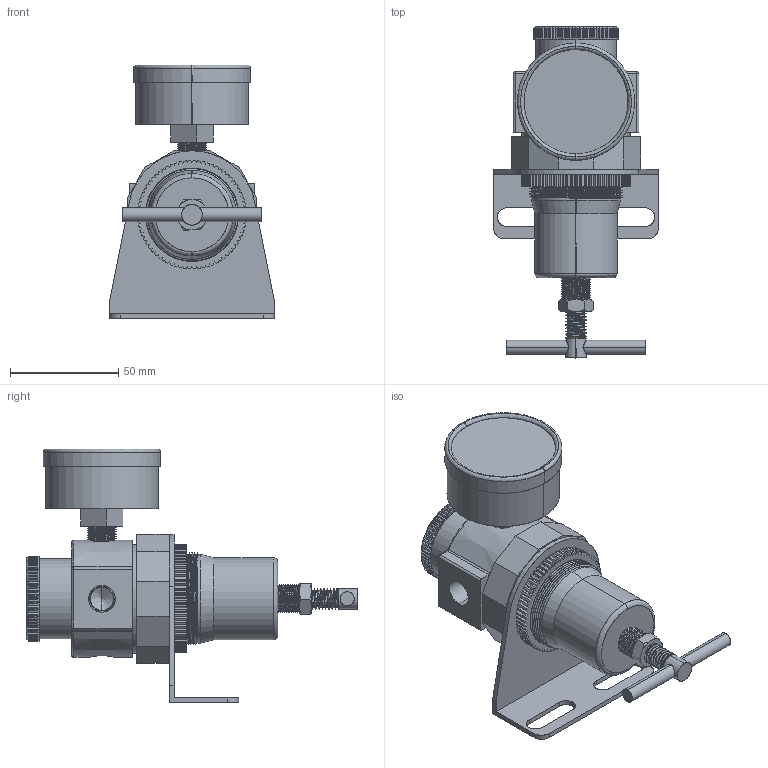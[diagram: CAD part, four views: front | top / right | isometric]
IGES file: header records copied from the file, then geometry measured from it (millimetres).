
Start section: SolidWorks IGES file using analytic representation for surfaces
Global section: file name: D:\Custom\3D繪製\FRL\空氣調壓閥\R011-02GB#.IGS; native system: SolidWorks 2014; preprocessor: SolidWorks 2014; author: Chieh_Lu; date: 160115.015629; units: millimetre
Bounding box: 76 x 153 x 117 mm (x, y, z)
Surface area: 62936.7 mm2 (no closed solid volume)
Topology: 0 solids, 0 shells, 735 faces, 8006 edges, 7993 vertices
Faces by surface type: bspline 385, revolution 350
